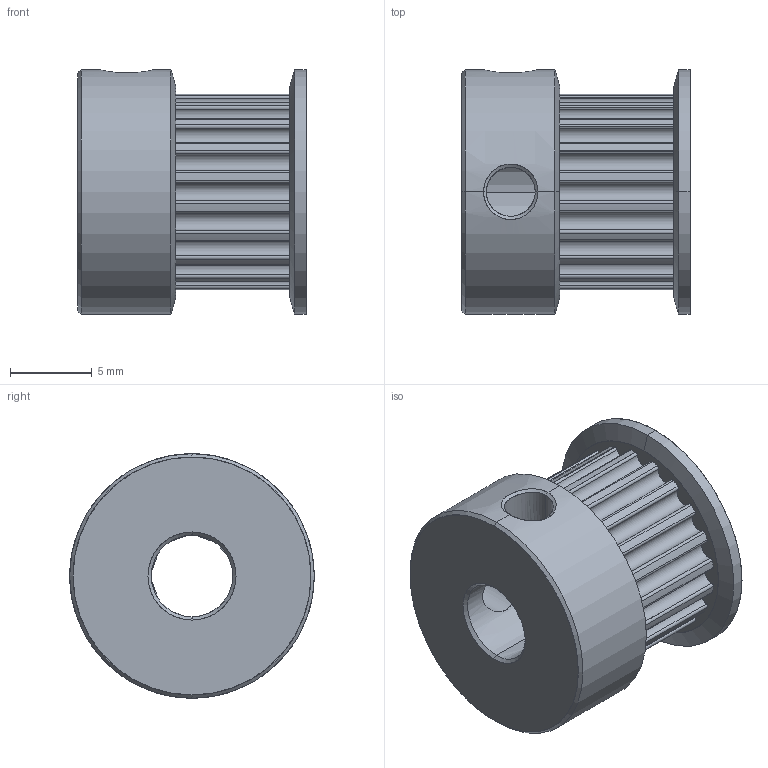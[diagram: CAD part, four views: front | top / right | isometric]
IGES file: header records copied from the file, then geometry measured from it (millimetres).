
Start section: SolidWorks IGES file using analytic representation for surfaces
Global section: file name: C:\Users\negleton\Desktop\GT2_20tooth.IGS; native system: SolidWorks 2013; preprocessor: SolidWorks 2013; author: negleton; date: 140417.142534; units: millimetre
Bounding box: 14 x 15 x 15 mm (x, y, z)
Surface area: 1428.1 mm2 (no closed solid volume)
Topology: 0 solids, 0 shells, 138 faces, 1706 edges, 1706 vertices
Faces by surface type: revolution 129, bspline 9
